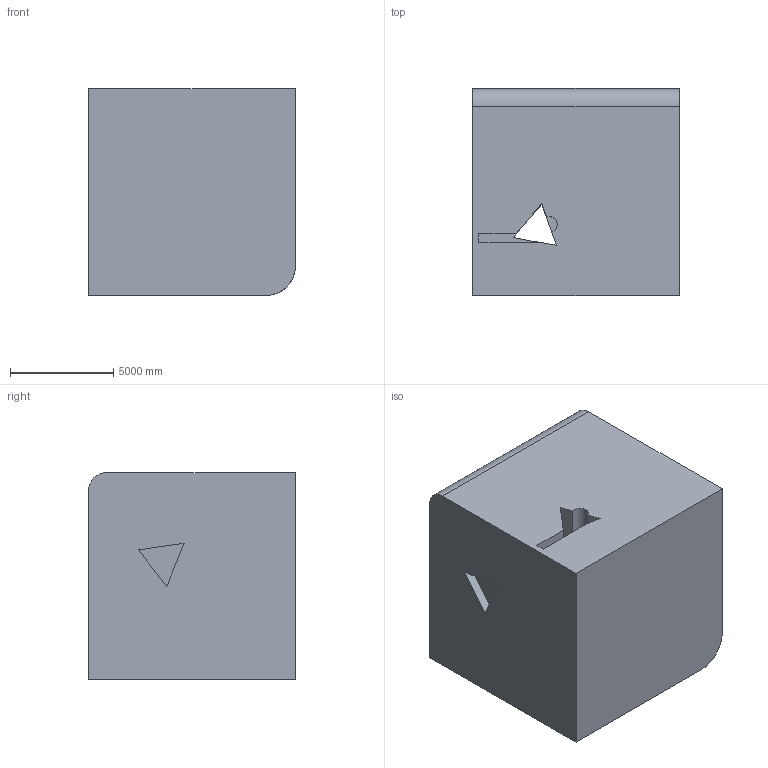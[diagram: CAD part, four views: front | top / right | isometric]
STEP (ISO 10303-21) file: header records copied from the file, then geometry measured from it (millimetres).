
FILE_DESCRIPTION (( 'STEP AP203' ), '1' );
FILE_NAME ('165.STEP', '2022-09-05T15:51:58', ( 'user' ), ( '' ), 'SwSTEP 2.0', 'SolidWorks 2021', '' );
FILE_SCHEMA (( 'CONFIG_CONTROL_DESIGN' ));
Length unit declared in the file: centimetre
Products named in the file (1): 165
Bounding box: 10000 x 10000 x 10000 mm (x, y, z)
Volume: 945032404729.3 mm3; surface area: 694946988.6 mm2
Topology: 1 solids, 1 shells, 28 faces, 75 edges, 50 vertices
Faces by surface type: plane 22, cylinder 6
Entity records: 953 total; most frequent: CARTESIAN_POINT 154, ORIENTED_EDGE 150, DIRECTION 146, EDGE_CURVE 75, VECTOR 62, LINE 62, VERTEX_POINT 50, AXIS2_PLACEMENT_3D 42
